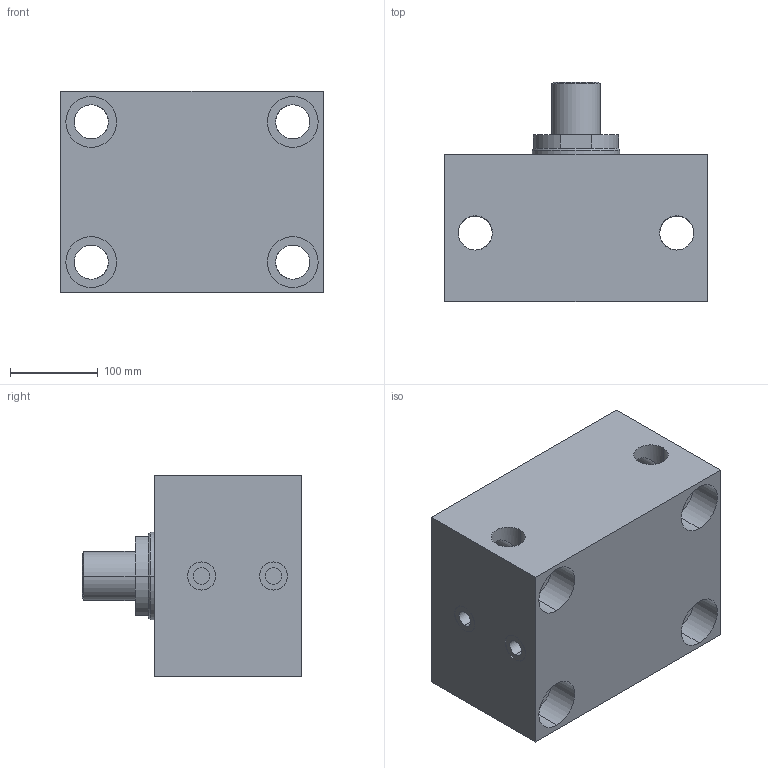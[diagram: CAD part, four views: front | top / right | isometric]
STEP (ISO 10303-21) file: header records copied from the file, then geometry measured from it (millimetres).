
FILE_DESCRIPTION (( 'STEP AP203' ), '1' );
FILE_NAME ('GERMA_Blockzylinder_600-160-040-A.STEP', '2016-04-06T16:13:13', ( '' ), ( '' ), 'SwSTEP 2.0', 'SolidWorks 2015', '' );
FILE_SCHEMA (( 'CONFIG_CONTROL_DESIGN' ));
Length unit declared in the file: millimetre
Products named in the file (3): Kolben 60x-160_Kolben DU.160-Hub40-AG; GERMA_Blockzylinder_600-160-040-A; GH-600-160_GH-600-160-040
Assembly tree (2 placements, depth 2):
  GERMA_Blockzylinder_600-160-040-A
    GH-600-160_GH-600-160-040
    Kolben 60x-160_Kolben DU.160-Hub40-AG
Bounding box: 300 x 250 x 230 mm (x, y, z)
Volume: 9775115.5 mm3; surface area: 626262.2 mm2
Topology: 2 solids, 2 shells, 113 faces, 258 edges, 157 vertices
Faces by surface type: cylinder 71, plane 30, cone 12
Entity records: 3498 total; most frequent: CARTESIAN_POINT 625, DIRECTION 579, ORIENTED_EDGE 508, EDGE_CURVE 254, AXIS2_PLACEMENT_3D 239, VERTEX_POINT 157, EDGE_LOOP 145, CIRCLE 121
